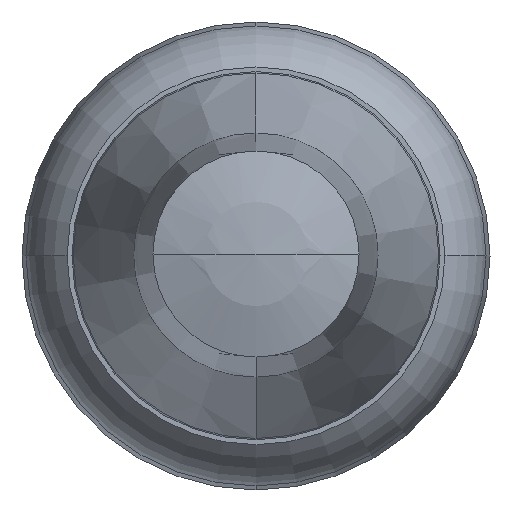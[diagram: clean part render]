
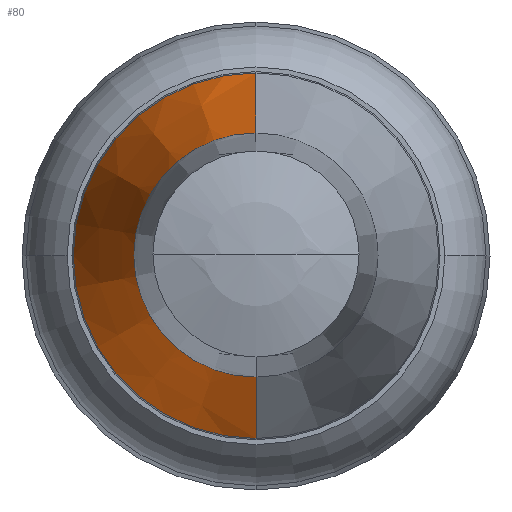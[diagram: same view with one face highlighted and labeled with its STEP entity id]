
A CAD part, top view. The second image highlights one B-rep face of the part: STEP entity #80.
In plain terms, the highlighted conical face has half-angle 15.423 degrees and reference radius 9.454 mm.
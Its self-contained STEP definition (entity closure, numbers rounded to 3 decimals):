
#80 = ADVANCED_FACE( '', ( #160 ), #161, .T. );
#160 = FACE_OUTER_BOUND( '', #319, .T. );
#161 = CONICAL_SURFACE( '', #320, 9.454, 0.269 );
#319 = EDGE_LOOP( '', ( #505, #506, #507, #508, #509 ) );
#320 = AXIS2_PLACEMENT_3D( '', #510, #511, #512 );
#505 = ORIENTED_EDGE( '', *, *, #1063, .F. );
#506 = ORIENTED_EDGE( '', *, *, #1064, .T. );
#507 = ORIENTED_EDGE( '', *, *, #1065, .T. );
#508 = ORIENTED_EDGE( '', *, *, #1066, .F. );
#509 = ORIENTED_EDGE( '', *, *, #1067, .F. );
#510 = CARTESIAN_POINT( '', ( 0., 0., 40.901 ) );
#511 = DIRECTION( '', ( 0., 0., -1. ) );
#512 = DIRECTION( '', ( 0., 1., 0. ) );
#1063 = EDGE_CURVE( '', #1256, #1257, #1258, .T. );
#1064 = EDGE_CURVE( '', #1256, #1259, #1260, .T. );
#1065 = EDGE_CURVE( '', #1259, #1261, #1262, .T. );
#1066 = EDGE_CURVE( '', #1263, #1261, #1264, .T. );
#1067 = EDGE_CURVE( '', #1257, #1263, #1265, .T. );
#1256 = VERTEX_POINT( '', #1553 );
#1257 = VERTEX_POINT( '', #1554 );
#1258 = LINE( '', #1555, #1556 );
#1259 = VERTEX_POINT( '', #1557 );
#1260 = CIRCLE( '', #1558, 11.716 );
#1261 = VERTEX_POINT( '', #1559 );
#1262 = CIRCLE( '', #1560, 11.716 );
#1263 = VERTEX_POINT( '', #1561 );
#1264 = LINE( '', #1562, #1563 );
#1265 = CIRCLE( '', #1564, 7.192 );
#1553 = CARTESIAN_POINT( '', ( 0., 11.716, 32.701 ) );
#1554 = CARTESIAN_POINT( '', ( 0., 7.192, 49.1 ) );
#1555 = CARTESIAN_POINT( '', ( 0., 9.454, 40.901 ) );
#1556 = VECTOR( '', #1992, 1. );
#1557 = CARTESIAN_POINT( '', ( -11.716, 0., 32.701 ) );
#1558 = AXIS2_PLACEMENT_3D( '', #1993, #1994, #1995 );
#1559 = CARTESIAN_POINT( '', ( 0., -11.716, 32.701 ) );
#1560 = AXIS2_PLACEMENT_3D( '', #1996, #1997, #1998 );
#1561 = CARTESIAN_POINT( '', ( 0., -7.192, 49.1 ) );
#1562 = CARTESIAN_POINT( '', ( 0., -9.454, 40.901 ) );
#1563 = VECTOR( '', #1999, 1. );
#1564 = AXIS2_PLACEMENT_3D( '', #2000, #2001, #2002 );
#1992 = DIRECTION( '', ( 0., -0.266, 0.964 ) );
#1993 = CARTESIAN_POINT( '', ( 0., 0., 32.701 ) );
#1994 = DIRECTION( '', ( 0., 0., 1. ) );
#1995 = DIRECTION( '', ( 0., 1., 0. ) );
#1996 = CARTESIAN_POINT( '', ( 0., 0., 32.701 ) );
#1997 = DIRECTION( '', ( 0., 0., 1. ) );
#1998 = DIRECTION( '', ( 0., 1., 0. ) );
#1999 = DIRECTION( '', ( 0., -0.266, -0.964 ) );
#2000 = CARTESIAN_POINT( '', ( 0., 0., 49.1 ) );
#2001 = DIRECTION( '', ( 0., 0., 1. ) );
#2002 = DIRECTION( '', ( 0., 1., 0. ) );
